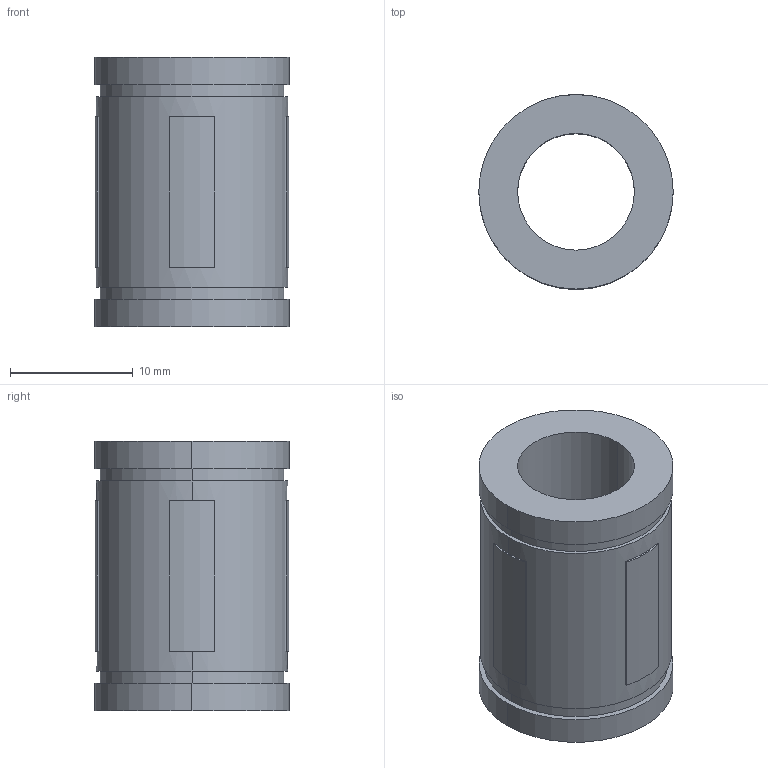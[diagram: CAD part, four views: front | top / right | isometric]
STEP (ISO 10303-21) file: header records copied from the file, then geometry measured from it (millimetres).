
FILE_DESCRIPTION((''),'2;1');
FILE_NAME('C:\Documents and Settings\ｿﾀﾀ蠑ｷ1\ｹﾙﾅﾁ ﾈｭｸ饅\ｺﾎﾇｰﾆﾄﾀﾏ\ﾁｦﾇｰ\LMBS__UU\LMBS6UU.stp','2005-06-15T13:58:09',('ｿﾀﾀ蠑ｷ1'),(''),'Autodesk Inventor 9','Autodesk Inventor 9','');
FILE_SCHEMA(('AUTOMOTIVE_DESIGN { 1 0 10303 214 1 1 1 1 }'));
Length unit declared in the file: millimetre
Products named in the file (1): LMBS__
Bounding box: 15.88 x 15.88 x 22 mm (x, y, z)
Volume: 2664.3 mm3; surface area: 2079.2 mm2
Topology: 1 solids, 1 shells, 38 faces, 90 edges, 60 vertices
Faces by surface type: plane 20, cylinder 14, bspline 4
Entity records: 1171 total; most frequent: CARTESIAN_POINT 229, DIRECTION 204, ORIENTED_EDGE 180, EDGE_CURVE 90, AXIS2_PLACEMENT_3D 79, VERTEX_POINT 60, VECTOR 46, LINE 46
